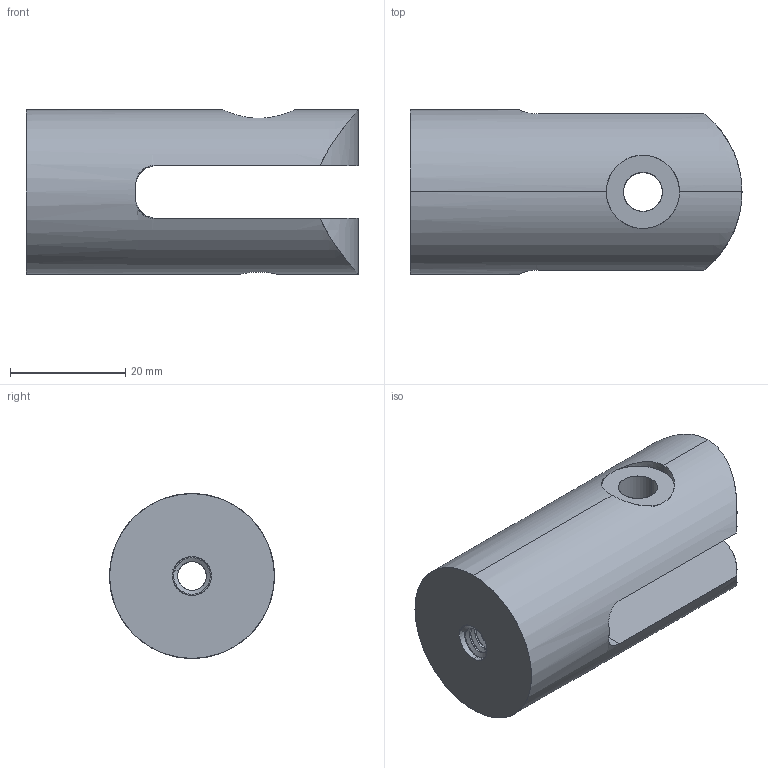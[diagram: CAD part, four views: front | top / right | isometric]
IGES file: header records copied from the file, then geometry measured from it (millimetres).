
Start section: SolidWorks IGES file using analytic representation for surfaces
Global section: file name: \\SERVER3\Design\_New Design Drive Folder List\_Design Vault\AAI\Modular Round Tube Connectors\Solidworks Models\STP Files\12202013\1.000 Inch Modular Connectors\DRP-002-0523-00.IGS; native system: SolidWorks 2013; preprocessor: SolidWorks 2013; author: tbraun; date: 131220.115547; units: inch
Bounding box: 57.57 x 28.57 x 28.57 mm (x, y, z)
Surface area: 8461.4 mm2 (no closed solid volume)
Topology: 0 solids, 0 shells, 33 faces, 727 edges, 727 vertices
Faces by surface type: revolution 17, bspline 16
